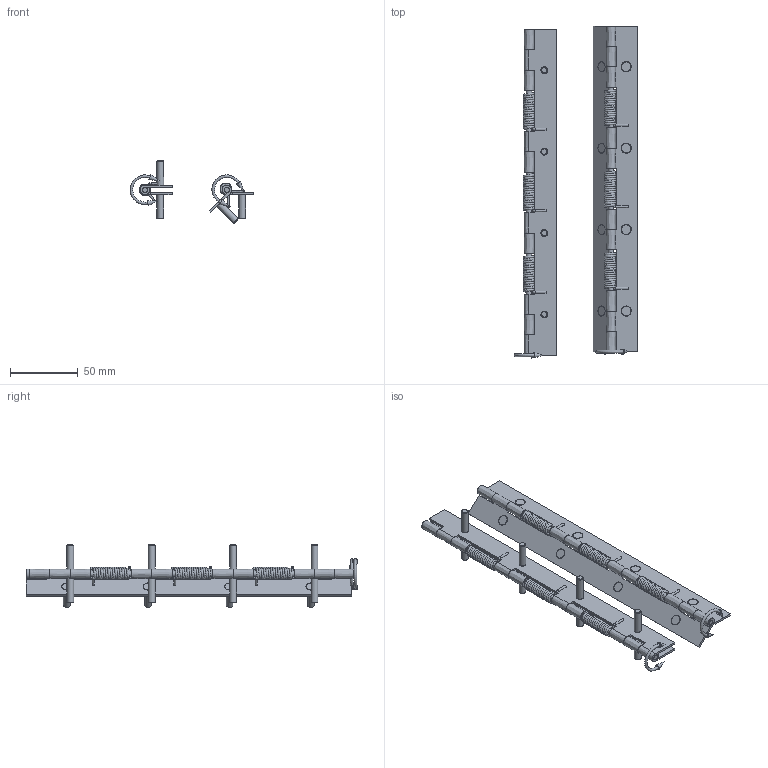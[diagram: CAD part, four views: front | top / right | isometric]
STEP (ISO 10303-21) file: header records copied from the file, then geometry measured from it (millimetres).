
FILE_DESCRIPTION(/* description */ ('Unknown'),/* implementation_level */ '2;1');
FILE_NAME(/* name */ '6166.03-04',/* time_stamp */ '2023-10-11T13:35:40+02:00',/* author */ ('Unknown'),/* organization */ ('Unknown'),/* preprocessor_version */ 'ST-DEVELOPER v16.7',/* originating_system */ 'DEX',/* authorisation */ $);
FILE_SCHEMA (('AUTOMOTIVE_DESIGN {1 0 10303 214 3 1 1}'));
Length unit declared in the file: millimetre
Products named in the file (13): 6166.03-04; ~TEIL4; DREHFEDERN - 1.600000 X 8.400000 X 15.000000; TEIL1; TEIL2; TEIL3; TEIL4; TEIL5; TEIL6; TEIL7; TEIL8; TEIL9; M5x18
Assembly tree (30 placements, depth 2):
  6166.03-04
    ~TEIL4  x2
    DREHFEDERN - 1.600000 X 8.400000 X 15.000000  x3
    TEIL1
    TEIL2
    TEIL3
    TEIL4
    TEIL5
    TEIL6
    TEIL7
    TEIL8
    TEIL9
    M5x18  x16
Bounding box: 91.31 x 244.59 x 46.25 mm (x, y, z)
Volume: 47702.9 mm3; surface area: 69299 mm2
Topology: 30 solids, 30 shells, 298 faces, 709 edges, 471 vertices
Faces by surface type: plane 148, bspline 79, cone 38, cylinder 25, torus 8
Full cylindrical faces by diameter (mm): 1.6 x9, 5 x16
Entity records: 35262 total; most frequent: CARTESIAN_POINT 30110, ORIENTED_EDGE 944, DIRECTION 904, EDGE_CURVE 472, VERTEX_POINT 346, LINE 304, VECTOR 304, AXIS2_PLACEMENT_3D 300
